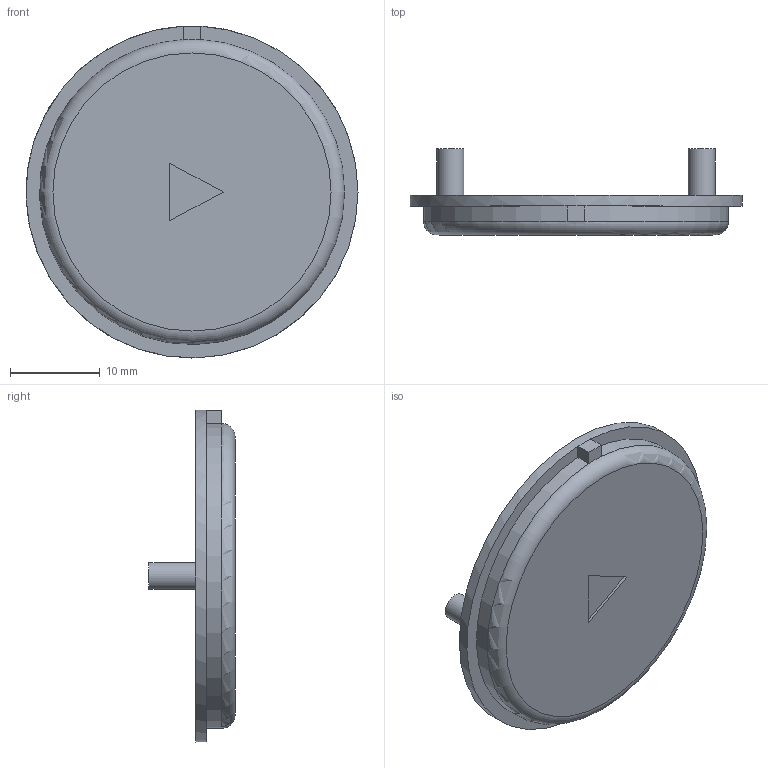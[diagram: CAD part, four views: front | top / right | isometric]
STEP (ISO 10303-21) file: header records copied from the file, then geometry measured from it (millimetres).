
FILE_DESCRIPTION(('Open CASCADE Model'),'2;1');
FILE_NAME('play_action_cap_cream','2026-09-08T13:43:18',('Author'),( 'Open CASCADE'),'Open CASCADE STEP processor 7.8','build123d', 'Unknown');
FILE_SCHEMA(('AUTOMOTIVE_DESIGN { 1 0 10303 214 1 1 1 1 }'));
Length unit declared in the file: millimetre
Products named in the file (2): =>[0:1:1:2]; play_action_cap_cream
Assembly tree (1 placements, depth 2):
  =>[0:1:1:2]
    play_action_cap_cream
Bounding box: 37 x 9.6 x 37 mm (x, y, z)
Volume: 4217.9 mm3; surface area: 2671.2 mm2
Topology: 1 solids, 1 shells, 21 faces, 42 edges, 26 vertices
Faces by surface type: plane 15, cylinder 5, torus 1
Full cylindrical faces by diameter (mm): 3 x2, 37 x1
Entity records: 1114 total; most frequent: DIRECTION 184, CARTESIAN_POINT 179, LINE 93, VECTOR 93, ORIENTED_EDGE 84, PCURVE 84, DEFINITIONAL_REPRESENTATION 84, EDGE_CURVE 42
